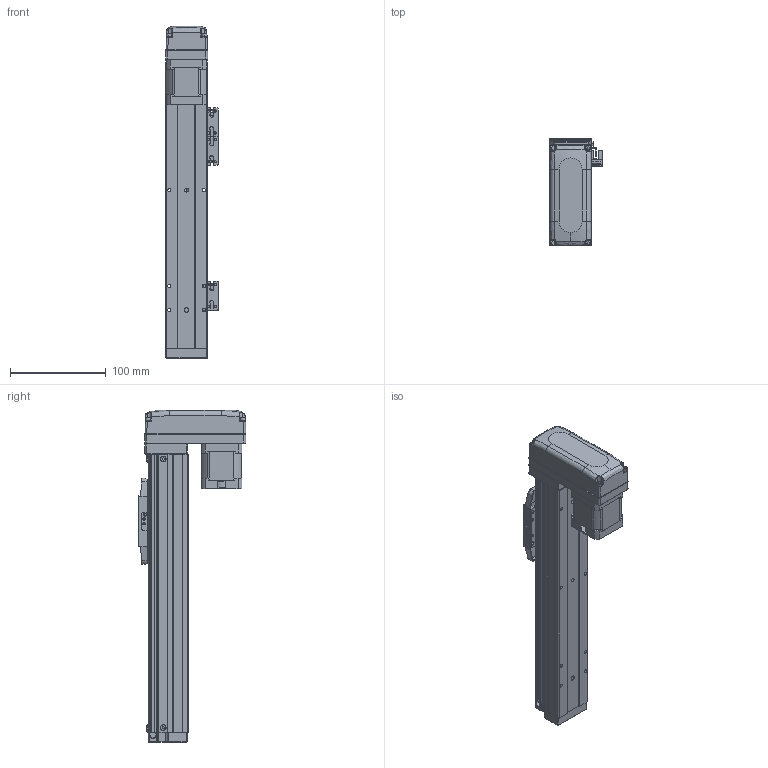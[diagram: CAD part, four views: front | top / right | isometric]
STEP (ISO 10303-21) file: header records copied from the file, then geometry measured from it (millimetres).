
FILE_DESCRIPTION (( 'STEP AP203' ), '1' );
FILE_NAME ('GTH4-150-BM-B42-C4.step', '2023-02-14T00:20:25', ( '微软用户' ), ( '微软中国' ), 'SwSTEP 2.0', 'SolidWorks 2020', '' );
FILE_SCHEMA (( 'CONFIG_CONTROL_DESIGN' ));
Length unit declared in the file: millimetre
Products named in the file (19): BTH40-003; GBT 70.1-M3℅6; BTH40-027-1; BTH40-006; GBT96.1-2002 3×0.8; BTH50-026; BTH-M3X5X6; BTH40-022; 42CM06; GBT70.1-2000 M3×16; GBT 70.1-M2.5×6; GTH4-150-BM-B42-C4; BTH50-028; BTH40-004; BTH50-023; BTH40-013; BTH40-001-50_BTH40-001-150; BTH50-024; GBT 70.3-M3℅6
Assembly tree (47 placements, depth 2):
  GTH4-150-BM-B42-C4
    BTH40-001-50_BTH40-001-150
    BTH40-003
    BTH40-006
    BTH-M3X5X6  x8
    GBT70.1-2000 M3×16  x4
    BTH50-028  x2
    BTH50-023  x3
    BTH50-024  x3
    GBT 70.1-M3℅6  x6
    GBT96.1-2002 3×0.8  x6
    BTH40-022
    GBT 70.1-M2.5×6  x2
    BTH40-004
    BTH40-013
    GBT 70.3-M3℅6  x4
    BTH40-027-1
    BTH50-026
    42CM06
Bounding box: 55.2 x 112 x 346 mm (x, y, z)
Volume: 708758.3 mm3; surface area: 168519 mm2
Topology: 56 solids, 56 shells, 3327 faces, 7748 edges, 4630 vertices
Faces by surface type: cone 1508, plane 1076, cylinder 565, torus 124, bspline 42, sphere 12
Entity records: 77594 total; most frequent: CARTESIAN_POINT 13993, DIRECTION 13789, ORIENTED_EDGE 12142, EDGE_CURVE 6071, AXIS2_PLACEMENT_3D 5289, VERTEX_POINT 3617, VECTOR 3211, LINE 3211
